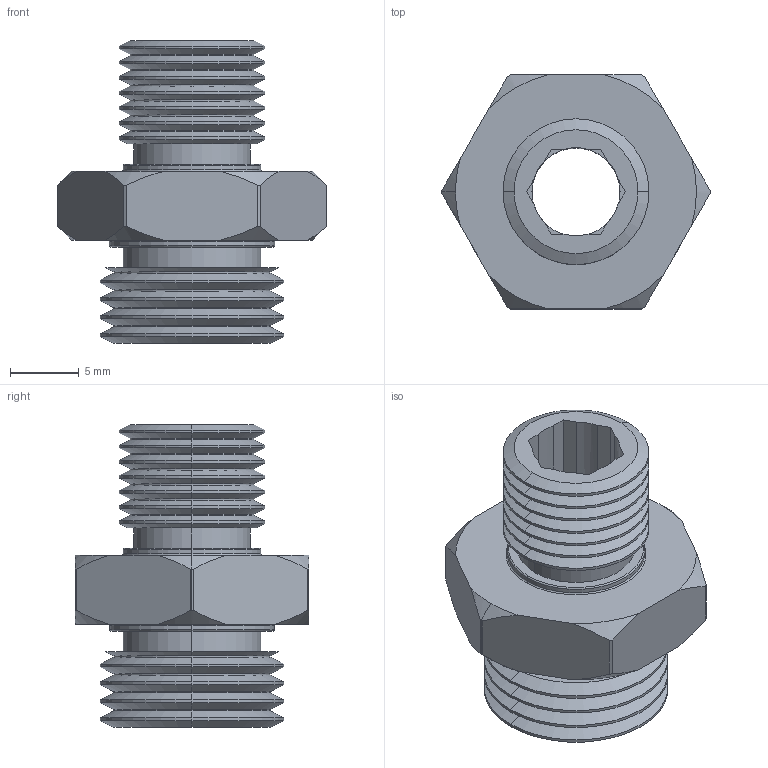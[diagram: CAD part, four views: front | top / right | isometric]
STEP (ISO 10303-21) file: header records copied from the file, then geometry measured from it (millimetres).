
FILE_DESCRIPTION (( 'STEP AP214' ), '1' );
FILE_NAME ('VM-G14M-M10M.STEP', '2023-03-07T08:53:15', ( 'Windows User' ), ( 'P R C' ), 'SwSTEP 2.0', 'SolidWorks 2019', '' );
FILE_SCHEMA (( 'AUTOMOTIVE_DESIGN' ));
Length unit declared in the file: millimetre
Products named in the file (1): VM-G14M-M10M
Bounding box: 19.5 x 17 x 22 mm (x, y, z)
Volume: 2064.6 mm3; surface area: 2227.3 mm2
Topology: 1 solids, 1 shells, 161 faces, 364 edges, 211 vertices
Faces by surface type: cone 62, cylinder 59, plane 32, torus 8
Entity records: 4567 total; most frequent: CARTESIAN_POINT 865, DIRECTION 835, ORIENTED_EDGE 728, EDGE_CURVE 364, AXIS2_PLACEMENT_3D 333, VERTEX_POINT 211, CIRCLE 171, LINE 169
